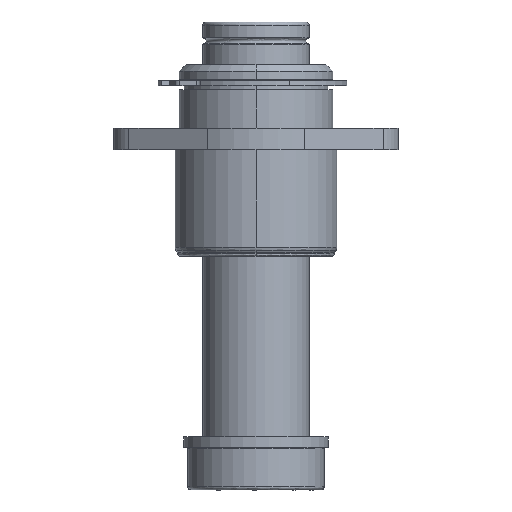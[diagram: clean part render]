
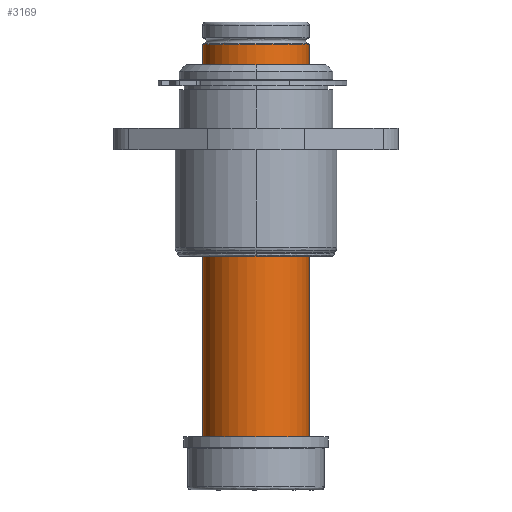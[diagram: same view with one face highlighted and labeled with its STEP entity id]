
A CAD part, front view. The second image highlights one B-rep face of the part: STEP entity #3169.
In plain terms, the highlighted cylindrical face has radius 15.855 mm (diameter 31.709 mm), a partial arc.
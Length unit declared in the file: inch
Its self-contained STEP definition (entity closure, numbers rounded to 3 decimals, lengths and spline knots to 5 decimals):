
#83 = DIRECTION ( 'NONE',  ( 0., 0., 1. ) ) ;
#260 = EDGE_CURVE ( 'NONE', #5838, #1312, #3888, .T. ) ;
#275 = ORIENTED_EDGE ( 'NONE', *, *, #1469, .T. ) ;
#441 = EDGE_LOOP ( 'NONE', ( #938, #1364, #1632, #275 ) ) ;
#494 = CARTESIAN_POINT ( 'NONE',  ( 0., 0., -0.26299 ) ) ;
#587 = FACE_OUTER_BOUND ( 'NONE', #441, .T. ) ;
#623 = EDGE_CURVE ( 'NONE', #3048, #5838, #2231, .T. ) ;
#938 = ORIENTED_EDGE ( 'NONE', *, *, #2864, .F. ) ;
#1312 = VERTEX_POINT ( 'NONE', #1703 ) ;
#1364 = ORIENTED_EDGE ( 'NONE', *, *, #623, .T. ) ;
#1401 = DIRECTION ( 'NONE',  ( 0., 0., 1. ) ) ;
#1469 = EDGE_CURVE ( 'NONE', #1312, #4690, #4216, .T. ) ;
#1632 = ORIENTED_EDGE ( 'NONE', *, *, #260, .T. ) ;
#1703 = CARTESIAN_POINT ( 'NONE',  ( 0.6242, 0., -0.26299 ) ) ;
#2052 = AXIS2_PLACEMENT_3D ( 'NONE', #2128, #5326, #4021 ) ;
#2128 = CARTESIAN_POINT ( 'NONE',  ( 0., 0., -5. ) ) ;
#2231 = CIRCLE ( 'NONE', #2052, 0.6242 ) ;
#2676 = VECTOR ( 'NONE', #83, 39.37008 ) ;
#2846 = CARTESIAN_POINT ( 'NONE',  ( -0.6242, 0., -5.33 ) ) ;
#2864 = EDGE_CURVE ( 'NONE', #3048, #4690, #2903, .T. ) ;
#2903 = LINE ( 'NONE', #2846, #5398 ) ;
#3048 = VERTEX_POINT ( 'NONE', #4400 ) ;
#3169 = ADVANCED_FACE ( 'NONE', ( #587 ), #4667, .T. ) ;
#3293 = DIRECTION ( 'NONE',  ( 1., 0., 0. ) ) ;
#3555 = CARTESIAN_POINT ( 'NONE',  ( -0.6242, 0., -0.26299 ) ) ;
#3888 = LINE ( 'NONE', #5485, #2676 ) ;
#4021 = DIRECTION ( 'NONE',  ( 1., 0., 0. ) ) ;
#4216 = CIRCLE ( 'NONE', #4717, 0.6242 ) ;
#4400 = CARTESIAN_POINT ( 'NONE',  ( -0.6242, 0., -5. ) ) ;
#4609 = DIRECTION ( 'NONE',  ( 0., 0., 1. ) ) ;
#4667 = CYLINDRICAL_SURFACE ( 'NONE', #5572, 0.6242 ) ;
#4690 = VERTEX_POINT ( 'NONE', #3555 ) ;
#4717 = AXIS2_PLACEMENT_3D ( 'NONE', #494, #6044, #3293 ) ;
#5003 = CARTESIAN_POINT ( 'NONE',  ( 0., 0., -5.33 ) ) ;
#5082 = CARTESIAN_POINT ( 'NONE',  ( 0.6242, 0., -5. ) ) ;
#5326 = DIRECTION ( 'NONE',  ( 0., 0., 1. ) ) ;
#5398 = VECTOR ( 'NONE', #1401, 39.37008 ) ;
#5485 = CARTESIAN_POINT ( 'NONE',  ( 0.6242, 0., -5.33 ) ) ;
#5503 = DIRECTION ( 'NONE',  ( 1., 0., 0. ) ) ;
#5572 = AXIS2_PLACEMENT_3D ( 'NONE', #5003, #4609, #5503 ) ;
#5838 = VERTEX_POINT ( 'NONE', #5082 ) ;
#6044 = DIRECTION ( 'NONE',  ( 0., 0., -1. ) ) ;
